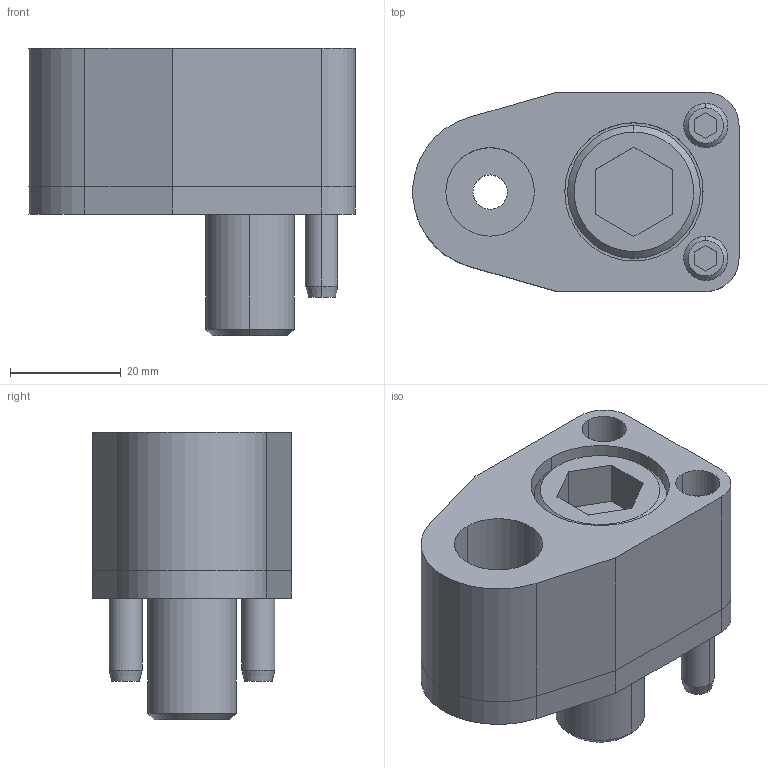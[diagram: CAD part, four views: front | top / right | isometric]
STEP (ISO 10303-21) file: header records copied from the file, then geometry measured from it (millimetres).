
FILE_DESCRIPTION(/* description */ (''),/* implementation_level */ '2;1');
FILE_NAME(/* name */ '3d_tp-aps16_03043_r00.stp',/* time_stamp */ '2011-01-10T14:09:00+09:00',/* author */ ('MISUMI'),/* organization */ (''),/* preprocessor_version */ 'ST-DEVELOPER v11',/* originating_system */ 'UGS - NX 5.0',/* authorisation */ '');
FILE_SCHEMA (('CONFIG_CONTROL_DESIGN'));
Length unit declared in the file: millimetre
Products named in the file (1): 3d_tp-aps16_03043_r00
Bounding box: 58.95 x 36 x 52 mm (x, y, z)
Volume: 51618.5 mm3; surface area: 21823.9 mm2
Topology: 7 solids, 7 shells, 130 faces, 290 edges, 186 vertices
Faces by surface type: plane 56, cylinder 52, cone 22
Entity records: 3770 total; most frequent: DIRECTION 674, CARTESIAN_POINT 655, ORIENTED_EDGE 580, EDGE_CURVE 290, AXIS2_PLACEMENT_3D 257, VERTEX_POINT 186, LINE 160, VECTOR 160
